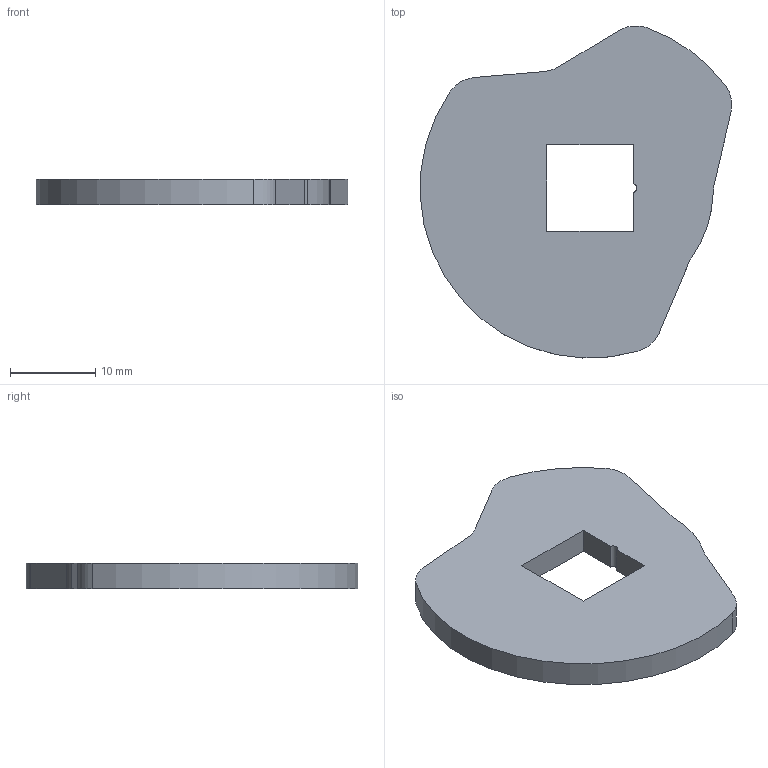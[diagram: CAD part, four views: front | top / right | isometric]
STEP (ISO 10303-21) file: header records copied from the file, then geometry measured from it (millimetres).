
FILE_DESCRIPTION(/* description */ ('STEP AP242','CAx-IF Rec.Pracs.---Representation and Presentation of Product Manufacturing Information (PMI)---4.0---2014-10-13','CAx-IF Rec.Pracs.---3D Tessellated Geometry---0.4---2014-09-14','2;1'),/* implementation_level */ '2;1');
FILE_NAME(/* name */ 'Part Studio 1 - Segment D Cam',/* time_stamp */ '2025-09-04T05:47:29Z',/* author */ (''),/* organization */ (''),/* preprocessor_version */ 'ST-DEVELOPER v20',/* originating_system */ 'ONSHAPE BY PTC INC, 1.203',/* authorisation */ ' ');
FILE_SCHEMA (('AP242_MANAGED_MODEL_BASED_3D_ENGINEERING_MIM_LF { 1 0 10303 442 1 1 4 }'));
Length unit declared in the file: metre
Products named in the file (1): Segment D Cam
Bounding box: 36.62 x 39.04 x 3 mm (x, y, z)
Volume: 2854.6 mm3; surface area: 2387.2 mm2
Topology: 1 solids, 1 shells, 22 faces, 60 edges, 40 vertices
Faces by surface type: plane 11, cylinder 11
Entity records: 732 total; most frequent: DIRECTION 128, CARTESIAN_POINT 123, ORIENTED_EDGE 120, EDGE_CURVE 60, AXIS2_PLACEMENT_3D 45, VERTEX_POINT 40, LINE 38, VECTOR 38
